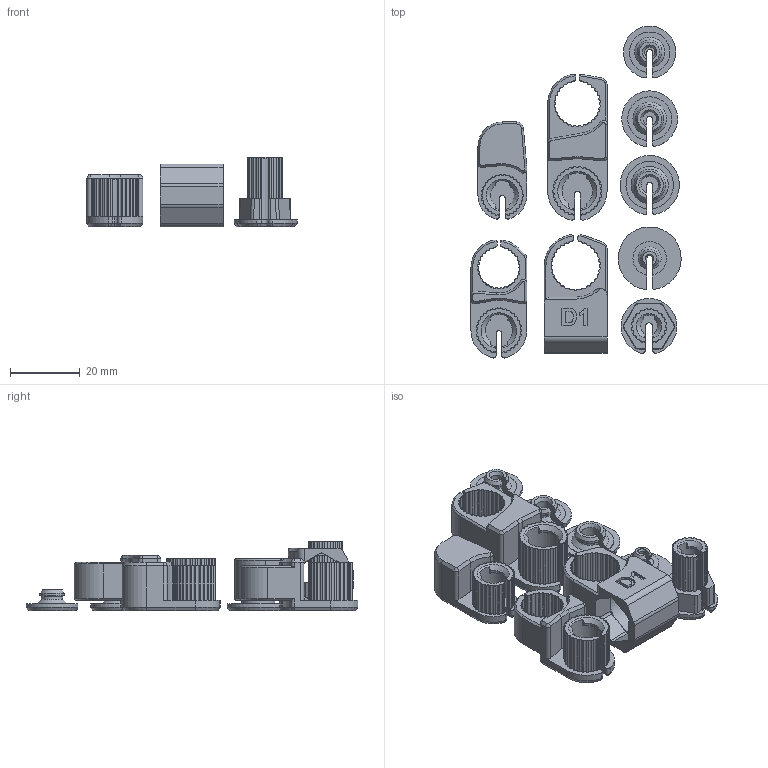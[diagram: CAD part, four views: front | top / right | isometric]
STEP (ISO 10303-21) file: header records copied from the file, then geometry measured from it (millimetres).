
FILE_DESCRIPTION (( 'STEP AP214' ), '1' );
FILE_NAME ('Robot Hand Finger D.STEP', '2024-06-24T13:55:10', ( '' ), ( '' ), 'SwSTEP 2.0', 'SolidWorks 2021', '' );
FILE_SCHEMA (( 'AUTOMOTIVE_DESIGN' ));
Length unit declared in the file: millimetre
Products named in the file (10): Finger D3; Robot Hand Finger D; Cover D2; Cover counterpart D0; Cover D3; Finger D2; Cover D0; Cover D1; Finger D1; Finger D4
Assembly tree (9 placements, depth 2):
  Robot Hand Finger D
    Finger D1
    Finger D2
    Finger D3
    Finger D4
    Cover counterpart D0
    Cover D1
    Cover D0
    Cover D2
    Cover D3
Bounding box: 60.16 x 95.05 x 20 mm (x, y, z)
Volume: 18624.8 mm3; surface area: 16536.9 mm2
Topology: 9 solids, 9 shells, 1112 faces, 3073 edges, 2009 vertices
Faces by surface type: cylinder 532, plane 314, bspline 166, cone 100
Full cylindrical faces by diameter (mm): 14 x1
Entity records: 43691 total; most frequent: CARTESIAN_POINT 15354, ORIENTED_EDGE 6140, DIRECTION 5633, EDGE_CURVE 3070, AXIS2_PLACEMENT_3D 2093, VERTEX_POINT 2008, VECTOR 1447, LINE 1447
